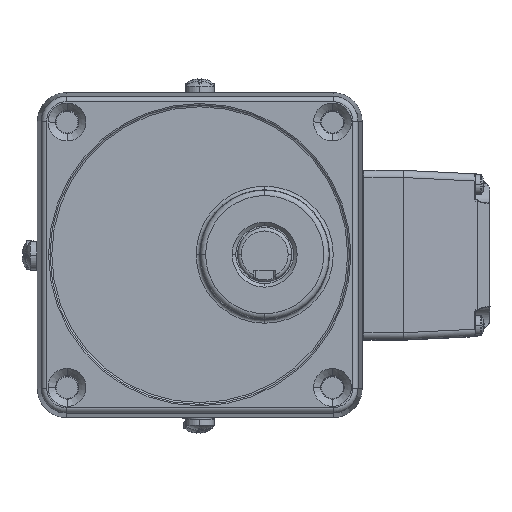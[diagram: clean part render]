
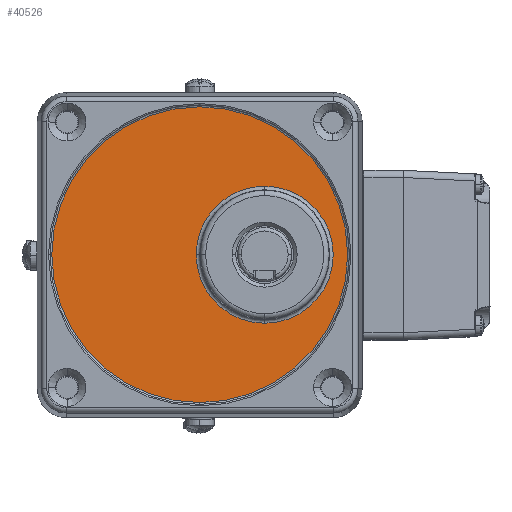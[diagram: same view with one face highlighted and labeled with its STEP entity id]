
A CAD part, top view. The second image highlights one B-rep face of the part: STEP entity #40526.
In plain terms, the highlighted planar face has unit normal (0, 0, 1) as drawn and (1, 0, 0) by its records, which use the part's own axes.
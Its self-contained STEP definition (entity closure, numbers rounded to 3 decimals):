
#126 = DIRECTION ( 'NONE',  ( 0., 0., 1. ) ) ;
#343 = DIRECTION ( 'NONE',  ( 0., 0., -1. ) ) ;
#577 = CIRCLE ( 'NONE', #34417, 40.991 ) ;
#2170 = ORIENTED_EDGE ( 'NONE', *, *, #30268, .F. ) ;
#2705 = EDGE_LOOP ( 'NONE', ( #15067, #51409, #16180 ) ) ;
#3516 = DIRECTION ( 'NONE',  ( 0., 0., 1. ) ) ;
#4671 = AXIS2_PLACEMENT_3D ( 'NONE', #23369, #41803, #343 ) ;
#5929 = CARTESIAN_POINT ( 'NONE',  ( 2703.292, -775.157, 0. ) ) ;
#8492 = EDGE_CURVE ( 'NONE', #43488, #43180, #35912, .T. ) ;
#9337 = CARTESIAN_POINT ( 'NONE',  ( 2703.292, -793.157, 0. ) ) ;
#9906 = ORIENTED_EDGE ( 'NONE', *, *, #59008, .F. ) ;
#10466 = FACE_OUTER_BOUND ( 'NONE', #52983, .T. ) ;
#10879 = CARTESIAN_POINT ( 'NONE',  ( 2703.292, -793.157, 18.983 ) ) ;
#11660 = VERTEX_POINT ( 'NONE', #31067 ) ;
#12200 = CARTESIAN_POINT ( 'NONE',  ( 2703.292, -774.175, 0. ) ) ;
#14173 = CIRCLE ( 'NONE', #47929, 40.991 ) ;
#14309 = CARTESIAN_POINT ( 'NONE',  ( 2703.292, -775.157, 0. ) ) ;
#15067 = ORIENTED_EDGE ( 'NONE', *, *, #39210, .F. ) ;
#16048 = ORIENTED_EDGE ( 'NONE', *, *, #36174, .F. ) ;
#16180 = ORIENTED_EDGE ( 'NONE', *, *, #44127, .F. ) ;
#18581 = AXIS2_PLACEMENT_3D ( 'NONE', #14309, #32786, #51163 ) ;
#21957 = CARTESIAN_POINT ( 'NONE',  ( 2703.292, -793.157, 0. ) ) ;
#23158 = CARTESIAN_POINT ( 'NONE',  ( 2703.292, -775.157, 0. ) ) ;
#23369 = CARTESIAN_POINT ( 'NONE',  ( 2703.292, -793.157, 0. ) ) ;
#24381 = DIRECTION ( 'NONE',  ( 1., 0., 0. ) ) ;
#26554 = CARTESIAN_POINT ( 'NONE',  ( 2703.292, -775.157, 0. ) ) ;
#27815 = DIRECTION ( 'NONE',  ( 1., 0., 0. ) ) ;
#28950 = FACE_BOUND ( 'NONE', #2705, .T. ) ;
#30268 = EDGE_CURVE ( 'NONE', #11660, #37313, #44619, .T. ) ;
#30778 = CIRCLE ( 'NONE', #4671, 18.983 ) ;
#31067 = CARTESIAN_POINT ( 'NONE',  ( 2703.292, -775.157, -40.991 ) ) ;
#32786 = DIRECTION ( 'NONE',  ( -1., 0., 0. ) ) ;
#34417 = AXIS2_PLACEMENT_3D ( 'NONE', #23158, #41584, #126 ) ;
#35421 = CARTESIAN_POINT ( 'NONE',  ( 2703.292, -793.157, -18.983 ) ) ;
#35912 = CIRCLE ( 'NONE', #43642, 18.983 ) ;
#36174 = EDGE_CURVE ( 'NONE', #37313, #52286, #577, .T. ) ;
#37313 = VERTEX_POINT ( 'NONE', #58549 ) ;
#39210 = EDGE_CURVE ( 'NONE', #43180, #50403, #44395, .T. ) ;
#40383 = DIRECTION ( 'NONE',  ( 1., 0., 0. ) ) ;
#40526 = ADVANCED_FACE ( 'NONE', ( #10466, #28950 ), #47355, .T. ) ;
#41584 = DIRECTION ( 'NONE',  ( -1., 0., 0. ) ) ;
#41803 = DIRECTION ( 'NONE',  ( 1., 0., 0. ) ) ;
#42811 = DIRECTION ( 'NONE',  ( 0., 1., 0. ) ) ;
#43180 = VERTEX_POINT ( 'NONE', #35421 ) ;
#43488 = VERTEX_POINT ( 'NONE', #10879 ) ;
#43642 = AXIS2_PLACEMENT_3D ( 'NONE', #21957, #40383, #58773 ) ;
#44127 = EDGE_CURVE ( 'NONE', #50403, #43488, #30778, .T. ) ;
#44395 = CIRCLE ( 'NONE', #52065, 18.983 ) ;
#44619 = CIRCLE ( 'NONE', #18581, 40.991 ) ;
#44977 = DIRECTION ( 'NONE',  ( -1., 0., 0. ) ) ;
#46243 = DIRECTION ( 'NONE',  ( 0., 0., -1. ) ) ;
#47355 = PLANE ( 'NONE',  #52999 ) ;
#47929 = AXIS2_PLACEMENT_3D ( 'NONE', #26554, #44977, #3516 ) ;
#50403 = VERTEX_POINT ( 'NONE', #12200 ) ;
#51163 = DIRECTION ( 'NONE',  ( 0., 0., -1. ) ) ;
#51409 = ORIENTED_EDGE ( 'NONE', *, *, #8492, .F. ) ;
#52065 = AXIS2_PLACEMENT_3D ( 'NONE', #9337, #27815, #46243 ) ;
#52286 = VERTEX_POINT ( 'NONE', #57005 ) ;
#52983 = EDGE_LOOP ( 'NONE', ( #2170, #9906, #16048 ) ) ;
#52999 = AXIS2_PLACEMENT_3D ( 'NONE', #5929, #24381, #42811 ) ;
#57005 = CARTESIAN_POINT ( 'NONE',  ( 2703.292, -734.166, 0. ) ) ;
#58549 = CARTESIAN_POINT ( 'NONE',  ( 2703.292, -775.157, 40.991 ) ) ;
#58773 = DIRECTION ( 'NONE',  ( 0., 0., 1. ) ) ;
#59008 = EDGE_CURVE ( 'NONE', #52286, #11660, #14173, .T. ) ;
